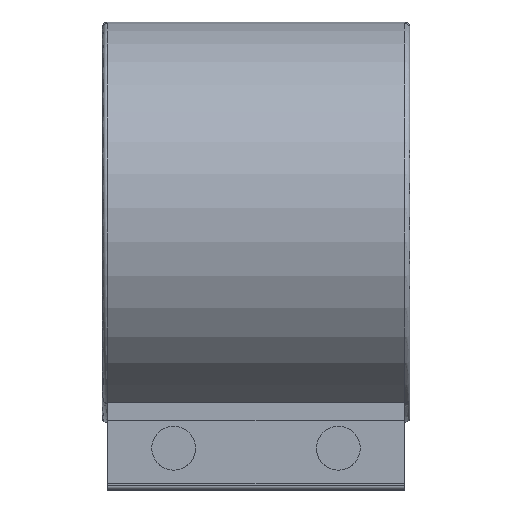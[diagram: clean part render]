
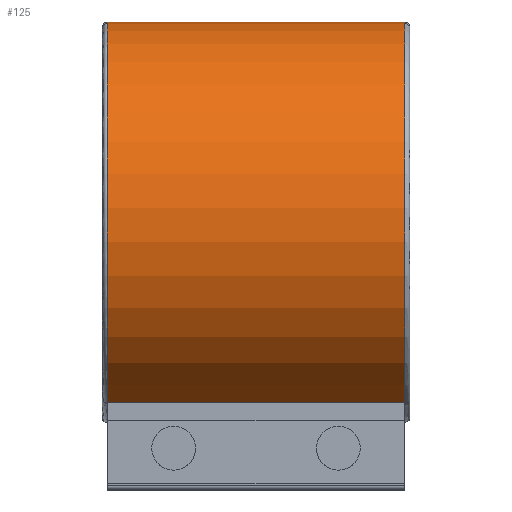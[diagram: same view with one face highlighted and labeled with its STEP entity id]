
A CAD part, top view. The second image highlights one B-rep face of the part: STEP entity #125.
In plain terms, the highlighted cylindrical face has radius 36.5 mm (diameter 73 mm), a partial arc.
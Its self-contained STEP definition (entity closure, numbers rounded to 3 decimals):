
#125 = ADVANCED_FACE( '', ( #332 ), #333, .T. );
#332 = FACE_OUTER_BOUND( '', #661, .T. );
#333 = CYLINDRICAL_SURFACE( '', #662, 36.5 );
#661 = EDGE_LOOP( '', ( #1004, #1005, #1006, #1007 ) );
#662 = AXIS2_PLACEMENT_3D( '', #1008, #1009, #1010 );
#1004 = ORIENTED_EDGE( '', *, *, #1720, .T. );
#1005 = ORIENTED_EDGE( '', *, *, #1721, .T. );
#1006 = ORIENTED_EDGE( '', *, *, #1722, .F. );
#1007 = ORIENTED_EDGE( '', *, *, #1723, .T. );
#1008 = CARTESIAN_POINT( '', ( 28., 0., 0. ) );
#1009 = DIRECTION( '', ( -1., 0., 0. ) );
#1010 = DIRECTION( '', ( 0., 0., -1. ) );
#1720 = EDGE_CURVE( '', #2011, #2012, #2013, .T. );
#1721 = EDGE_CURVE( '', #2012, #2014, #2015, .T. );
#1722 = EDGE_CURVE( '', #2016, #2014, #2017, .T. );
#1723 = EDGE_CURVE( '', #2016, #2011, #2018, .F. );
#2011 = VERTEX_POINT( '', #2430 );
#2012 = VERTEX_POINT( '', #2431 );
#2013 = CIRCLE( '', #2432, 36.5 );
#2014 = VERTEX_POINT( '', #2433 );
#2015 = LINE( '', #2434, #2435 );
#2016 = VERTEX_POINT( '', #2436 );
#2017 = CIRCLE( '', #2437, 36.5 );
#2018 = LINE( '', #2438, #2439 );
#2430 = CARTESIAN_POINT( '', ( -27.124, -32.927, -15.75 ) );
#2431 = CARTESIAN_POINT( '', ( -27.124, -32.927, 15.75 ) );
#2432 = AXIS2_PLACEMENT_3D( '', #2939, #2940, #2941 );
#2433 = CARTESIAN_POINT( '', ( 27.124, -32.927, 15.75 ) );
#2434 = CARTESIAN_POINT( '', ( 28., -32.927, 15.75 ) );
#2435 = VECTOR( '', #2942, 1000. );
#2436 = CARTESIAN_POINT( '', ( 27.124, -32.927, -15.75 ) );
#2437 = AXIS2_PLACEMENT_3D( '', #2943, #2944, #2945 );
#2438 = CARTESIAN_POINT( '', ( 28., -32.927, -15.75 ) );
#2439 = VECTOR( '', #2946, 1000. );
#2939 = CARTESIAN_POINT( '', ( -27.124, 0., 0. ) );
#2940 = DIRECTION( '', ( 1., 0., 0. ) );
#2941 = DIRECTION( '', ( 0., 0., -1. ) );
#2942 = DIRECTION( '', ( 1., 0., 0. ) );
#2943 = CARTESIAN_POINT( '', ( 27.124, 0., 0. ) );
#2944 = DIRECTION( '', ( 1., 0., 0. ) );
#2945 = DIRECTION( '', ( 0., 0., -1. ) );
#2946 = DIRECTION( '', ( 1., 0., 0. ) );
